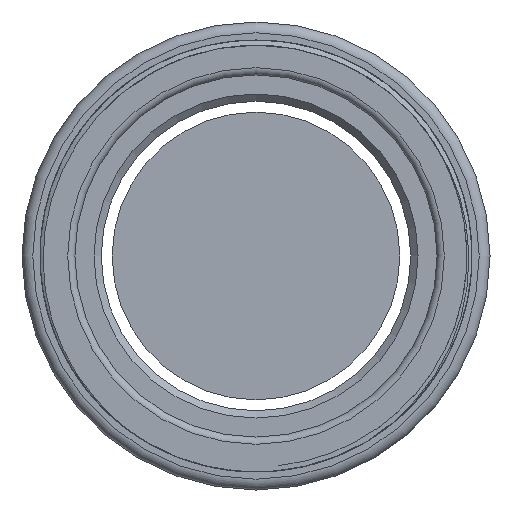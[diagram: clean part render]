
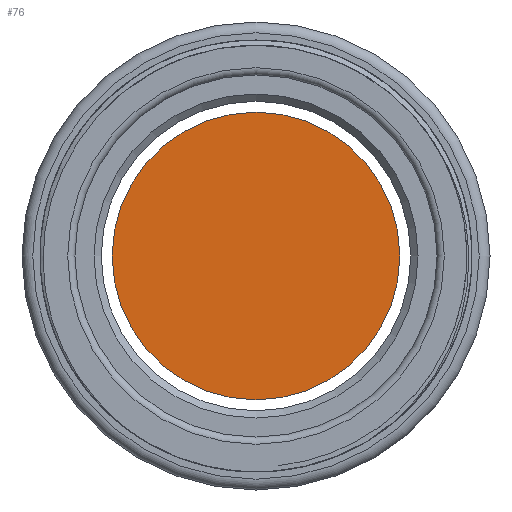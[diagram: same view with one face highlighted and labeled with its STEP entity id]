
A CAD part, front view. The second image highlights one B-rep face of the part: STEP entity #76.
In plain terms, the highlighted planar face has unit normal (0, -1, 0).
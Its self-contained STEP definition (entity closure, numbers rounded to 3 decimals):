
#61=PLANE('',#327);
#69=FACE_OUTER_BOUND('',#145,.T.);
#76=ADVANCED_FACE('',(#69),#61,.F.);
#145=EDGE_LOOP('',(#187));
#187=ORIENTED_EDGE('',*,*,#271,.F.);
#245=VERTEX_POINT('',#461);
#271=EDGE_CURVE('',#245,#245,#301,.T.);
#301=CIRCLE('',#324,19.975);
#324=AXIS2_PLACEMENT_3D('',#460,#371,#372);
#327=AXIS2_PLACEMENT_3D('',#464,#377,#378);
#371=DIRECTION('',(0.,1.,0.));
#372=DIRECTION('',(1.,0.,0.));
#377=DIRECTION('',(0.,1.,0.));
#378=DIRECTION('',(0.,0.,1.));
#460=CARTESIAN_POINT('',(0.,-18.,0.));
#461=CARTESIAN_POINT('',(19.975,-18.,0.));
#464=CARTESIAN_POINT('',(0.,-18.,0.));
